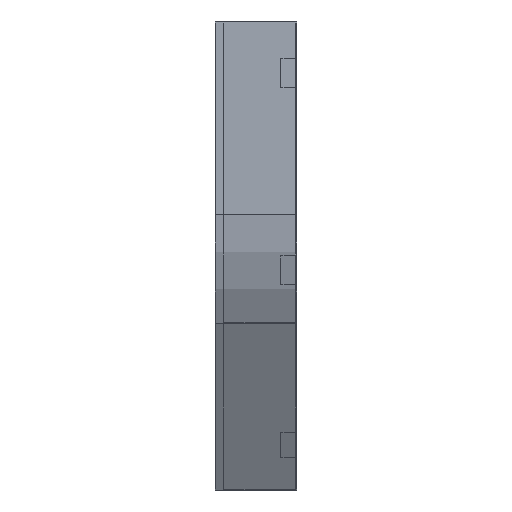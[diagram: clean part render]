
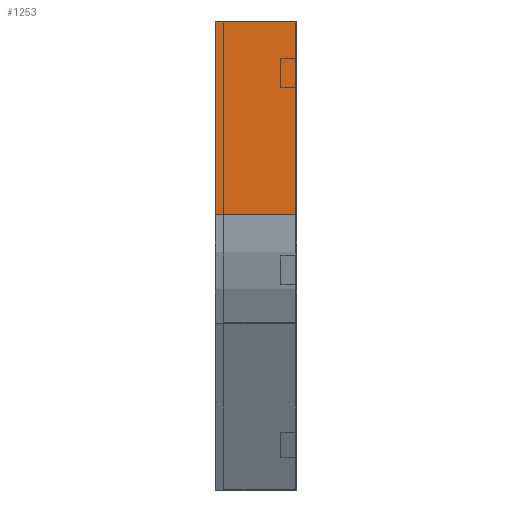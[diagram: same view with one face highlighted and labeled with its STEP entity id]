
A CAD part, left-side view. The second image highlights one B-rep face of the part: STEP entity #1253.
In plain terms, the highlighted planar face has unit normal (-1, 0, 0).
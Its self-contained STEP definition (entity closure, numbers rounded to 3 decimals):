
#44 = ORIENTED_EDGE ( 'NONE', *, *, #1733, .F. ) ;
#46 = VERTEX_POINT ( 'NONE', #1538 ) ;
#110 = CARTESIAN_POINT ( 'NONE',  ( 0., 0., 0. ) ) ;
#117 = LINE ( 'NONE', #971, #681 ) ;
#127 = VERTEX_POINT ( 'NONE', #1336 ) ;
#162 = VECTOR ( 'NONE', #1233, 1000. ) ;
#173 = DIRECTION ( 'NONE',  ( 0., 0., -1. ) ) ;
#215 = ORIENTED_EDGE ( 'NONE', *, *, #1098, .T. ) ;
#260 = EDGE_LOOP ( 'NONE', ( #44, #550, #215, #1718 ) ) ;
#319 = DIRECTION ( 'NONE',  ( 1., 0., 0. ) ) ;
#351 = CARTESIAN_POINT ( 'NONE',  ( 0., 0., 0. ) ) ;
#499 = VECTOR ( 'NONE', #923, 1000. ) ;
#514 = DIRECTION ( 'NONE',  ( 0., 0., -1. ) ) ;
#550 = ORIENTED_EDGE ( 'NONE', *, *, #1642, .F. ) ;
#600 = VECTOR ( 'NONE', #789, 1000. ) ;
#681 = VECTOR ( 'NONE', #514, 1000. ) ;
#714 = PLANE ( 'NONE',  #1695 ) ;
#789 = DIRECTION ( 'NONE',  ( 0., -1., 0. ) ) ;
#799 = CARTESIAN_POINT ( 'NONE',  ( 0., 0., 0. ) ) ;
#826 = CARTESIAN_POINT ( 'NONE',  ( 0., 112.5, -264.359 ) ) ;
#923 = DIRECTION ( 'NONE',  ( 0., -1., 0. ) ) ;
#971 = CARTESIAN_POINT ( 'NONE',  ( 0., 112.5, 0. ) ) ;
#1063 = LINE ( 'NONE', #1235, #600 ) ;
#1084 = LINE ( 'NONE', #799, #162 ) ;
#1098 = EDGE_CURVE ( 'NONE', #46, #1133, #117, .T. ) ;
#1133 = VERTEX_POINT ( 'NONE', #826 ) ;
#1154 = CARTESIAN_POINT ( 'NONE',  ( 0., 0., 0. ) ) ;
#1233 = DIRECTION ( 'NONE',  ( 0., 0., -1. ) ) ;
#1235 = CARTESIAN_POINT ( 'NONE',  ( 0., 0., -264.359 ) ) ;
#1253 = ADVANCED_FACE ( 'NONE', ( #1439 ), #714, .F. ) ;
#1289 = EDGE_CURVE ( 'NONE', #1133, #127, #1063, .T. ) ;
#1336 = CARTESIAN_POINT ( 'NONE',  ( 0., 0., -264.359 ) ) ;
#1439 = FACE_OUTER_BOUND ( 'NONE', #260, .T. ) ;
#1538 = CARTESIAN_POINT ( 'NONE',  ( 0., 112.5, 0. ) ) ;
#1636 = LINE ( 'NONE', #351, #499 ) ;
#1642 = EDGE_CURVE ( 'NONE', #46, #1806, #1636, .T. ) ;
#1695 = AXIS2_PLACEMENT_3D ( 'NONE', #1154, #319, #173 ) ;
#1718 = ORIENTED_EDGE ( 'NONE', *, *, #1289, .T. ) ;
#1733 = EDGE_CURVE ( 'NONE', #1806, #127, #1084, .T. ) ;
#1806 = VERTEX_POINT ( 'NONE', #110 ) ;
